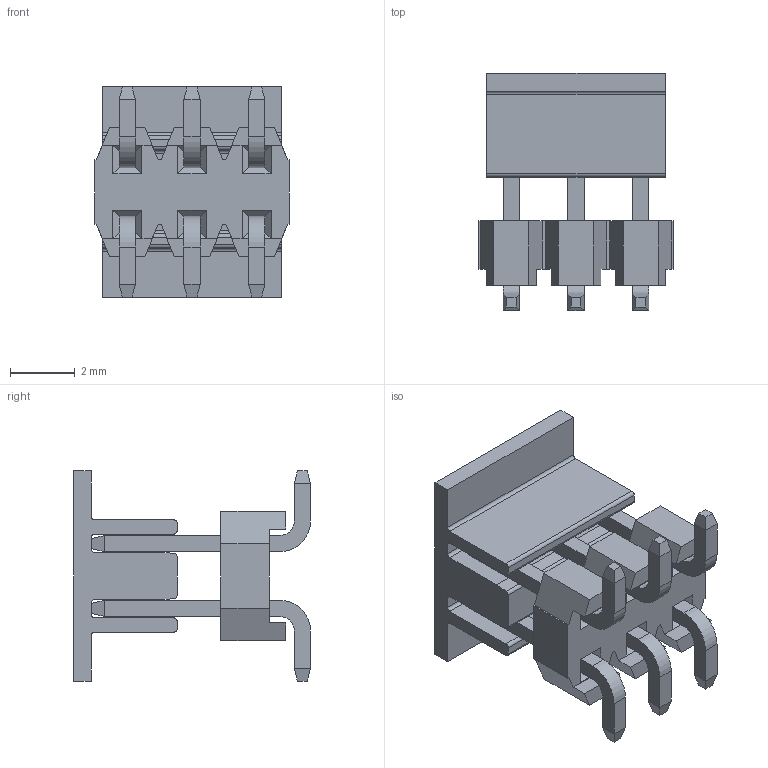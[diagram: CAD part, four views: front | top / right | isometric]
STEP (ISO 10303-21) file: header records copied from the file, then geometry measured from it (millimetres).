
FILE_DESCRIPTION (( 'STEP AP203' ), '1' );
FILE_NAME ('CH71062M100-0P.STEP', '2018-08-13T03:03:35', ( '' ), ( '' ), 'SwSTEP 2.0', 'SolidWorks 2017', '' );
FILE_SCHEMA (( 'CONFIG_CONTROL_DESIGN' ));
Length unit declared in the file: millimetre
Products named in the file (4): 12P_6; SMT PIN-PC; CH01000E003; CH71062M100-0P
Assembly tree (8 placements, depth 2):
  CH71062M100-0P
    12P_6
    SMT PIN-PC  x6
    CH01000E003
Bounding box: 6 x 7.32 x 6.5 mm (x, y, z)
Volume: 97.4 mm3; surface area: 385.5 mm2
Topology: 8 solids, 8 shells, 230 faces, 570 edges, 356 vertices
Faces by surface type: plane 206, cylinder 24
Entity records: 4824 total; most frequent: CARTESIAN_POINT 757, ORIENTED_EDGE 740, DIRECTION 700, EDGE_CURVE 370, VECTOR 342, LINE 342, VERTEX_POINT 236, AXIS2_PLACEMENT_3D 179
